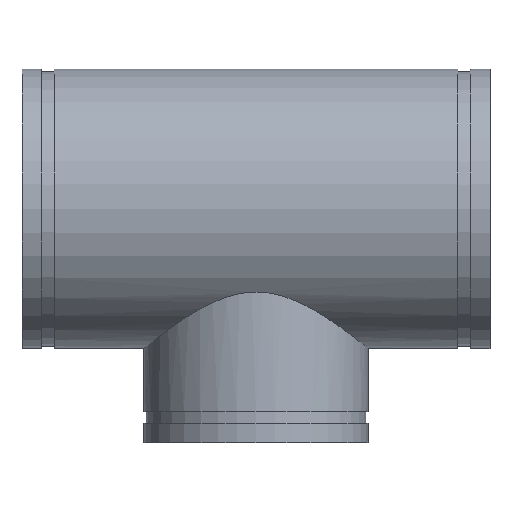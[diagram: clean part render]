
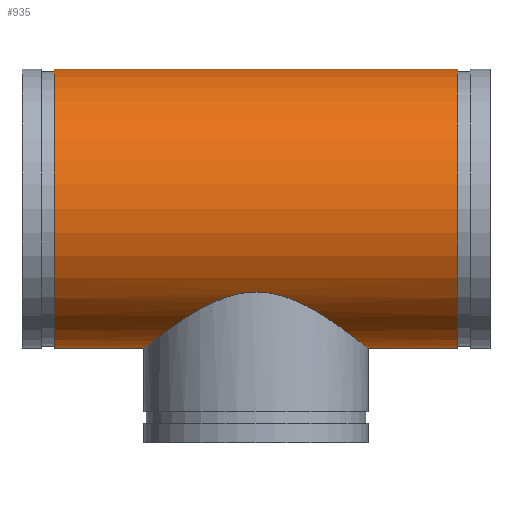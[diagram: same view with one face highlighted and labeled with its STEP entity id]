
A CAD part, top view. The second image highlights one B-rep face of the part: STEP entity #935.
In plain terms, the highlighted cylindrical face has radius 136.525 mm (diameter 273.05 mm), a full revolution.
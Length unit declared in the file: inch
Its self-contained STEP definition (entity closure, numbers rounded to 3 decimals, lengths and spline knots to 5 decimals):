
#61=FACE_BOUND('',#222,.T.);
#67=B_SPLINE_CURVE_WITH_KNOTS('',3,(#1815,#1816,#1817,#1818,#1819,#1820,
#1821,#1822,#1823,#1824,#1825,#1826,#1827,#1828,#1829,#1830,#1831,#1832,
#1833,#1834),.UNSPECIFIED.,.F.,.F.,(4,2,2,2,2,2,2,2,2,4),(0.,1.12425,
2.2485,4.49699,6.74549,8.99399,11.17125,
13.34851,15.52578,17.70304),.UNSPECIFIED.);
#68=B_SPLINE_CURVE_WITH_KNOTS('',3,(#1835,#1836,#1837,#1838,#1839,#1840,
#1841,#1842,#1843,#1844,#1845,#1846,#1847,#1848,#1849,#1850,#1851,#1852,
#1853,#1854,#1855,#1856,#1857,#1858,#1859,#1860,#1861,#1862,#1863,#1864,
#1865,#1866,#1867,#1868,#1869,#1870,#1871,#1872,#1873,#1874,#1875,#1876,
#1877,#1878,#1879,#1880,#1881,#1882,#1883,#1884,#1885,#1886,#1887,#1888,
#1889,#1890),.UNSPECIFIED.,.F.,.F.,(4,2,2,2,2,2,2,2,2,2,2,2,2,2,2,2,2,2,
2,2,2,2,2,2,2,2,2,4),(17.70304,19.8803,22.05757,
24.23483,26.41209,28.66059,30.90909,33.15758,
34.28183,35.40608,36.53033,37.65458,39.90307,
42.15157,44.40006,46.57733,48.75459,50.93186,
53.10912,55.28638,57.46365,59.64091,61.81817,
64.06667,66.31517,68.56366,69.68791,70.81216),
 .UNSPECIFIED.);
#81=CYLINDRICAL_SURFACE('',#1104,5.375);
#103=LINE('',#1812,#125);
#125=VECTOR('',#1432,5.375);
#171=FACE_OUTER_BOUND('',#221,.T.);
#221=EDGE_LOOP('',(#814,#815,#816,#817));
#222=EDGE_LOOP('',(#818,#819));
#326=CIRCLE('',#1087,5.375);
#337=CIRCLE('',#1103,5.375);
#424=VERTEX_POINT('',#1780);
#435=VERTEX_POINT('',#1809);
#436=VERTEX_POINT('',#1813);
#437=VERTEX_POINT('',#1814);
#552=EDGE_CURVE('',#424,#424,#326,.T.);
#565=EDGE_CURVE('',#435,#435,#337,.T.);
#566=EDGE_CURVE('',#435,#424,#103,.T.);
#567=EDGE_CURVE('',#436,#437,#67,.T.);
#568=EDGE_CURVE('',#437,#436,#68,.T.);
#814=ORIENTED_EDGE('',*,*,#565,.T.);
#815=ORIENTED_EDGE('',*,*,#566,.T.);
#816=ORIENTED_EDGE('',*,*,#552,.T.);
#817=ORIENTED_EDGE('',*,*,#566,.F.);
#818=ORIENTED_EDGE('',*,*,#567,.T.);
#819=ORIENTED_EDGE('',*,*,#568,.T.);
#935=ADVANCED_FACE('',(#171,#61),#81,.T.);
#1087=AXIS2_PLACEMENT_3D('',#1781,#1394,#1395);
#1103=AXIS2_PLACEMENT_3D('',#1810,#1428,#1429);
#1104=AXIS2_PLACEMENT_3D('',#1811,#1430,#1431);
#1394=DIRECTION('center_axis',(-1.,0.,0.));
#1395=DIRECTION('ref_axis',(0.,-1.,0.));
#1428=DIRECTION('center_axis',(1.,0.,0.));
#1429=DIRECTION('ref_axis',(0.,-1.,0.));
#1430=DIRECTION('center_axis',(-1.,0.,0.));
#1431=DIRECTION('ref_axis',(0.,-1.,0.));
#1432=DIRECTION('',(1.,0.,0.));
#1780=CARTESIAN_POINT('',(7.75,5.375,0.));
#1781=CARTESIAN_POINT('Origin',(7.75,0.,0.));
#1809=CARTESIAN_POINT('',(-7.75,5.375,0.));
#1810=CARTESIAN_POINT('Origin',(-7.75,0.,0.));
#1811=CARTESIAN_POINT('Origin',(9.,0.,0.));
#1812=CARTESIAN_POINT('',(9.,5.375,0.));
#1813=CARTESIAN_POINT('',(0.,-3.20827,-4.3125));
#1814=CARTESIAN_POINT('',(-4.3125,-5.375,0.));
#1815=CARTESIAN_POINT('Ctrl Pts',(0.,-3.20827,
-4.3125));
#1816=CARTESIAN_POINT('Ctrl Pts',(-0.14754,-3.20827,
-4.3125));
#1817=CARTESIAN_POINT('Ctrl Pts',(-0.29444,-3.21853,
-4.30492));
#1818=CARTESIAN_POINT('Ctrl Pts',(-0.58518,-3.25802,
-4.27511));
#1819=CARTESIAN_POINT('Ctrl Pts',(-0.72903,-3.28722,
-4.25289));
#1820=CARTESIAN_POINT('Ctrl Pts',(-1.15366,-3.39842,-4.16536));
#1821=CARTESIAN_POINT('Ctrl Pts',(-1.42766,-3.50402,-4.07914));
#1822=CARTESIAN_POINT('Ctrl Pts',(-1.94791,-3.74624,-3.85788));
#1823=CARTESIAN_POINT('Ctrl Pts',(-2.19453,-3.88274,-3.72263));
#1824=CARTESIAN_POINT('Ctrl Pts',(-2.65152,-4.15816,-3.41225));
#1825=CARTESIAN_POINT('Ctrl Pts',(-2.86182,-4.29703,-3.23698));
#1826=CARTESIAN_POINT('Ctrl Pts',(-3.23103,-4.5514,-2.86776));
#1827=CARTESIAN_POINT('Ctrl Pts',(-3.40483,-4.67707,-2.66103));
#1828=CARTESIAN_POINT('Ctrl Pts',(-3.71653,-4.90863,-2.20485));
#1829=CARTESIAN_POINT('Ctrl Pts',(-3.85444,-5.01445,-1.95535));
#1830=CARTESIAN_POINT('Ctrl Pts',(-4.07969,-5.18959,-1.42698));
#1831=CARTESIAN_POINT('Ctrl Pts',(-4.16722,-5.25903,-1.14749));
#1832=CARTESIAN_POINT('Ctrl Pts',(-4.28365,-5.35177,-0.57687));
#1833=CARTESIAN_POINT('Ctrl Pts',(-4.3125,-5.375,-0.28573));
#1834=CARTESIAN_POINT('Ctrl Pts',(-4.3125,-5.375,0.));
#1835=CARTESIAN_POINT('Ctrl Pts',(-4.3125,-5.375,0.));
#1836=CARTESIAN_POINT('Ctrl Pts',(-4.3125,-5.375,0.28573));
#1837=CARTESIAN_POINT('Ctrl Pts',(-4.28365,-5.35177,0.57687));
#1838=CARTESIAN_POINT('Ctrl Pts',(-4.16722,-5.25903,1.14749));
#1839=CARTESIAN_POINT('Ctrl Pts',(-4.07969,-5.18959,1.42698));
#1840=CARTESIAN_POINT('Ctrl Pts',(-3.85444,-5.01445,1.95535));
#1841=CARTESIAN_POINT('Ctrl Pts',(-3.71653,-4.90863,2.20485));
#1842=CARTESIAN_POINT('Ctrl Pts',(-3.40483,-4.67707,2.66103));
#1843=CARTESIAN_POINT('Ctrl Pts',(-3.23103,-4.5514,2.86776));
#1844=CARTESIAN_POINT('Ctrl Pts',(-2.86182,-4.29703,3.23698));
#1845=CARTESIAN_POINT('Ctrl Pts',(-2.65152,-4.15816,3.41225));
#1846=CARTESIAN_POINT('Ctrl Pts',(-2.19453,-3.88274,3.72263));
#1847=CARTESIAN_POINT('Ctrl Pts',(-1.94791,-3.74624,3.85788));
#1848=CARTESIAN_POINT('Ctrl Pts',(-1.42766,-3.50402,4.07914));
#1849=CARTESIAN_POINT('Ctrl Pts',(-1.15366,-3.39842,4.16536));
#1850=CARTESIAN_POINT('Ctrl Pts',(-0.72903,-3.28722,
4.25289));
#1851=CARTESIAN_POINT('Ctrl Pts',(-0.58518,-3.25802,
4.27511));
#1852=CARTESIAN_POINT('Ctrl Pts',(-0.29444,-3.21853,
4.30492));
#1853=CARTESIAN_POINT('Ctrl Pts',(-0.14754,-3.20827,
4.3125));
#1854=CARTESIAN_POINT('Ctrl Pts',(0.14754,-3.20827,4.3125));
#1855=CARTESIAN_POINT('Ctrl Pts',(0.29444,-3.21853,4.30492));
#1856=CARTESIAN_POINT('Ctrl Pts',(0.58518,-3.25802,4.27511));
#1857=CARTESIAN_POINT('Ctrl Pts',(0.72903,-3.28722,4.25289));
#1858=CARTESIAN_POINT('Ctrl Pts',(1.15366,-3.39842,4.16536));
#1859=CARTESIAN_POINT('Ctrl Pts',(1.42766,-3.50402,4.07914));
#1860=CARTESIAN_POINT('Ctrl Pts',(1.94791,-3.74624,3.85788));
#1861=CARTESIAN_POINT('Ctrl Pts',(2.19453,-3.88274,3.72263));
#1862=CARTESIAN_POINT('Ctrl Pts',(2.65152,-4.15816,3.41225));
#1863=CARTESIAN_POINT('Ctrl Pts',(2.86182,-4.29703,3.23698));
#1864=CARTESIAN_POINT('Ctrl Pts',(3.23103,-4.5514,2.86776));
#1865=CARTESIAN_POINT('Ctrl Pts',(3.40483,-4.67707,2.66103));
#1866=CARTESIAN_POINT('Ctrl Pts',(3.71653,-4.90863,2.20485));
#1867=CARTESIAN_POINT('Ctrl Pts',(3.85444,-5.01445,1.95535));
#1868=CARTESIAN_POINT('Ctrl Pts',(4.07969,-5.18959,1.42698));
#1869=CARTESIAN_POINT('Ctrl Pts',(4.16722,-5.25903,1.14749));
#1870=CARTESIAN_POINT('Ctrl Pts',(4.28365,-5.35177,0.57687));
#1871=CARTESIAN_POINT('Ctrl Pts',(4.3125,-5.375,0.28573));
#1872=CARTESIAN_POINT('Ctrl Pts',(4.3125,-5.375,-0.28573));
#1873=CARTESIAN_POINT('Ctrl Pts',(4.28365,-5.35177,-0.57687));
#1874=CARTESIAN_POINT('Ctrl Pts',(4.16722,-5.25903,-1.14749));
#1875=CARTESIAN_POINT('Ctrl Pts',(4.07969,-5.18959,-1.42698));
#1876=CARTESIAN_POINT('Ctrl Pts',(3.85444,-5.01445,-1.95535));
#1877=CARTESIAN_POINT('Ctrl Pts',(3.71653,-4.90863,-2.20485));
#1878=CARTESIAN_POINT('Ctrl Pts',(3.40483,-4.67707,-2.66103));
#1879=CARTESIAN_POINT('Ctrl Pts',(3.23103,-4.5514,-2.86776));
#1880=CARTESIAN_POINT('Ctrl Pts',(2.86182,-4.29703,-3.23698));
#1881=CARTESIAN_POINT('Ctrl Pts',(2.65152,-4.15816,-3.41225));
#1882=CARTESIAN_POINT('Ctrl Pts',(2.19453,-3.88274,-3.72263));
#1883=CARTESIAN_POINT('Ctrl Pts',(1.94791,-3.74624,-3.85788));
#1884=CARTESIAN_POINT('Ctrl Pts',(1.42766,-3.50402,-4.07914));
#1885=CARTESIAN_POINT('Ctrl Pts',(1.15366,-3.39842,-4.16536));
#1886=CARTESIAN_POINT('Ctrl Pts',(0.72903,-3.28722,-4.25289));
#1887=CARTESIAN_POINT('Ctrl Pts',(0.58518,-3.25802,-4.27511));
#1888=CARTESIAN_POINT('Ctrl Pts',(0.29444,-3.21853,-4.30492));
#1889=CARTESIAN_POINT('Ctrl Pts',(0.14754,-3.20827,-4.3125));
#1890=CARTESIAN_POINT('Ctrl Pts',(0.,-3.20827,-4.3125));
